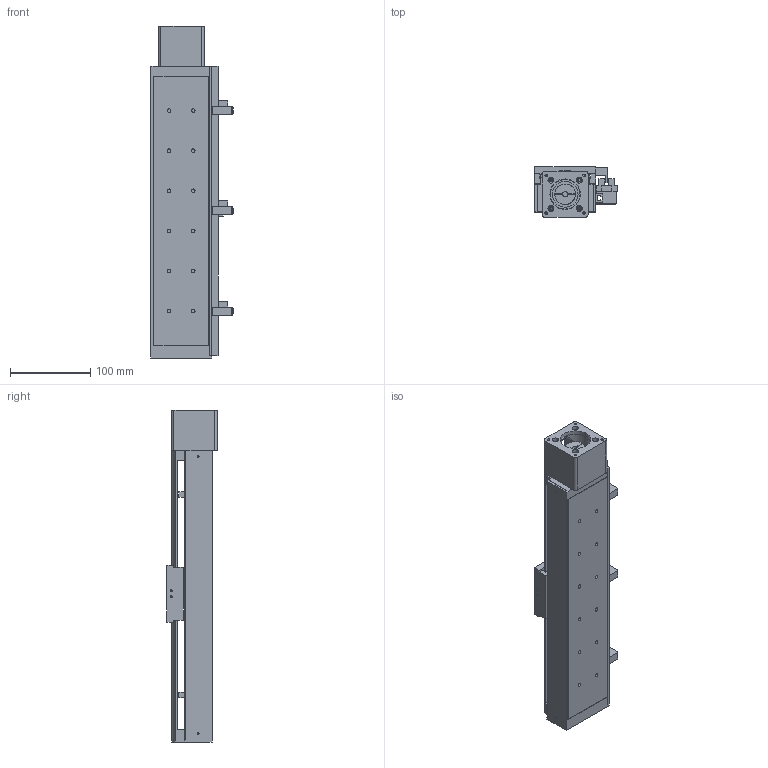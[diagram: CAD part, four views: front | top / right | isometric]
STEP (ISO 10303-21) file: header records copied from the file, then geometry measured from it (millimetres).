
FILE_DESCRIPTION((''),'2;1');
FILE_NAME('E:\uia actuator\UIA actuator 3d- 2009\Standard ball screw actuator\UIA076R9DC\UIA076R9DC-STEP file\with motor mount\UIA076R9DC step file 18Apr16\UIA076R9DC-250-R1205(or R1210)-M23-P13-C10-S.stp','2016-04-20T08:17:33',('h029'),(''),'Autodesk Inventor 11','Autodesk Inventor 11','');
FILE_SCHEMA(('AUTOMOTIVE_DESIGN { 1 0 10303 214 1 1 1 1 }'));
Length unit declared in the file: millimetre
Products named in the file (10): UIA076R9DC-250-R1205(or R1210)-M23-P13-C10-S; UIA076R9DC-250-BODY; UIA076R9DC-250-sensor rail; UIA076R9DC-CARRIAGE; UIA076R9DC-SENSOR FLAG; 01-100 0110 Motor MOUNT-M23; SOH-25C; SOH-25C-2; SOH-25C-3; SOH-25C-1
Assembly tree (9 placements, depth 3):
  UIA076R9DC-250-R1205(or R1210)-M23-P13-C10-S
    UIA076R9DC-250-BODY
    UIA076R9DC-250-sensor rail
    UIA076R9DC-CARRIAGE
    UIA076R9DC-SENSOR FLAG
    01-100 0110 Motor MOUNT-M23
    SOH-25C
      SOH-25C-2
      SOH-25C-3
      SOH-25C-1
Bounding box: 103 x 63 x 414 mm (x, y, z)
Volume: 683210.7 mm3; surface area: 265587.2 mm2
Topology: 8 solids, 8 shells, 416 faces, 1167 edges, 768 vertices
Faces by surface type: plane 287, cylinder 101, cone 21, bspline 7
Full cylindrical faces by diameter (mm): 2.459 x8, 3 x2, 3.242 x16, 3.5 x4, 4 x6, 4.5 x16, 6 x2, 7.5 x16, 22 x1, 25.5 x3, 32 x1, 37 x1, 38.1 x1
Entity records: 13282 total; most frequent: CARTESIAN_POINT 2644, DIRECTION 2106, ORIENTED_EDGE 2032, EDGE_CURVE 1016, VECTOR 760, LINE 760, VERTEX_POINT 721, AXIS2_PLACEMENT_3D 673
